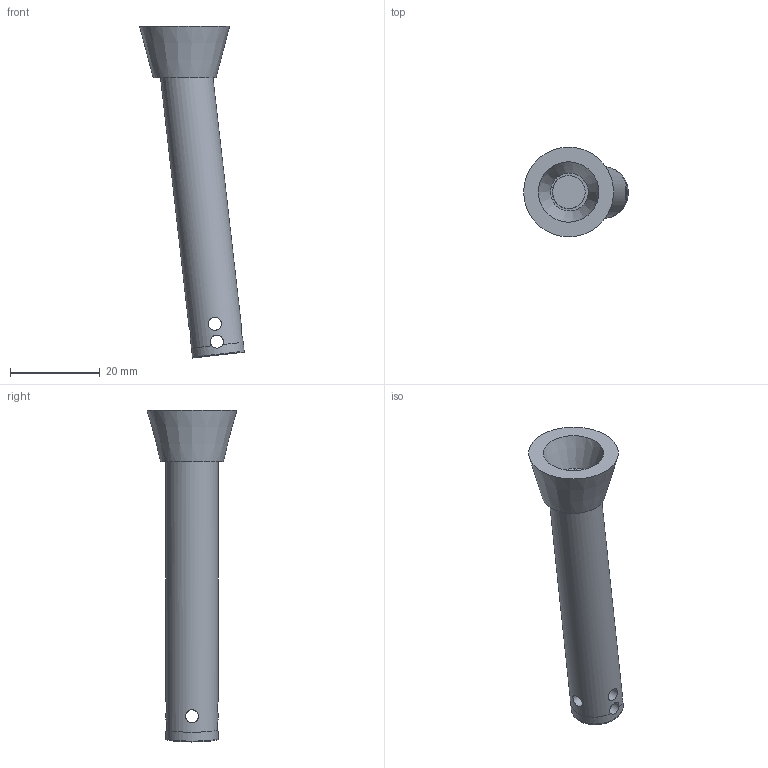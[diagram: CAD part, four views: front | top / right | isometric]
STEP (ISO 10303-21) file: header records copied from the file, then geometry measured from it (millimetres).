
FILE_DESCRIPTION(('Open CASCADE Model'),'2;1');
FILE_NAME('Open CASCADE Shape Model','2026-08-19T15:28:08',('Author'),( 'Open CASCADE'),'Open CASCADE STEP processor 7.9','Open CASCADE 7.9' ,'Unknown');
FILE_SCHEMA(('AUTOMOTIVE_DESIGN { 1 0 10303 214 1 1 1 1 }'));
Length unit declared in the file: millimetre
Products named in the file (1): Open CASCADE STEP translator 7.9 2
Bounding box: 23.29 x 20 x 73.86 mm (x, y, z)
Volume: 5750.5 mm3; surface area: 5106.3 mm2
Topology: 1 solids, 1 shells, 22 faces, 58 edges, 37 vertices
Faces by surface type: cylinder 10, plane 8, cone 4
Full cylindrical faces by diameter (mm): 2.9 x5, 7.4 x2, 11.6 x3
Entity records: 4252 total; most frequent: CARTESIAN_POINT 3188, DIRECTION 155, ORIENTED_EDGE 116, PCURVE 116, DEFINITIONAL_REPRESENTATION 116, B_SPLINE_CURVE_WITH_KNOTS 83, LINE 59, VECTOR 59
